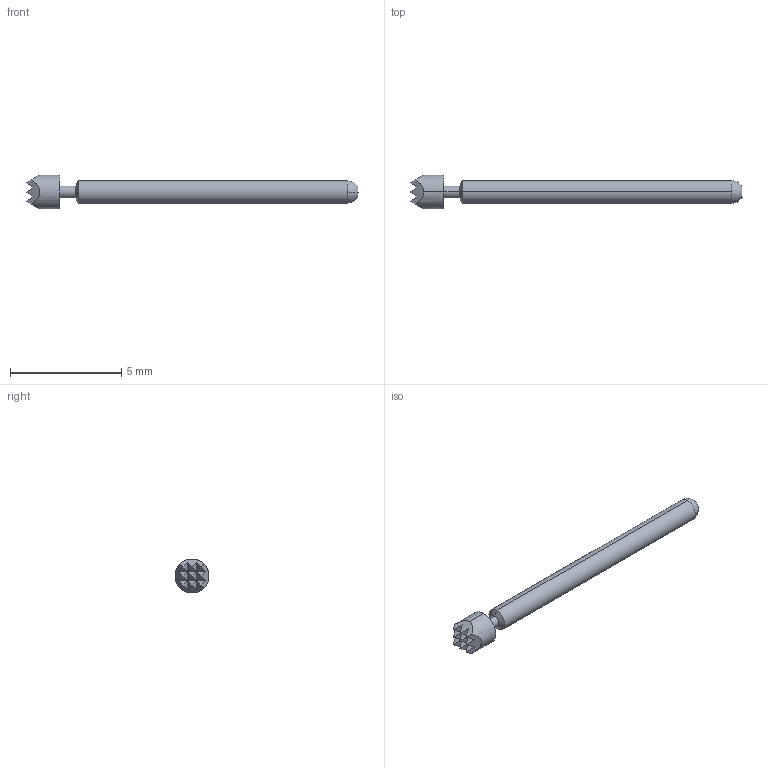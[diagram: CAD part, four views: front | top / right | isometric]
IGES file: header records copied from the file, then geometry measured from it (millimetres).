
Start section: SolidWorks IGES file using analytic representation for surfaces
Global section: file name: Z:\probe solid model mockups\Solidworks models\IGES Files\HPA-1\HPA-1H RECD.IGS; native system: SolidWorks 2006 by SolidWorks Corporation; preprocessor: SolidWorks 2006 by SolidWorks Corporation; author: tsakatani; date: 071220.112441; units: inch
Bounding box: 14.94 x 1.52 x 1.52 mm (x, y, z)
Surface area: 52.4 mm2 (no closed solid volume)
Topology: 0 solids, 0 shells, 40 faces, 234 edges, 234 vertices
Faces by surface type: bspline 30, revolution 10
